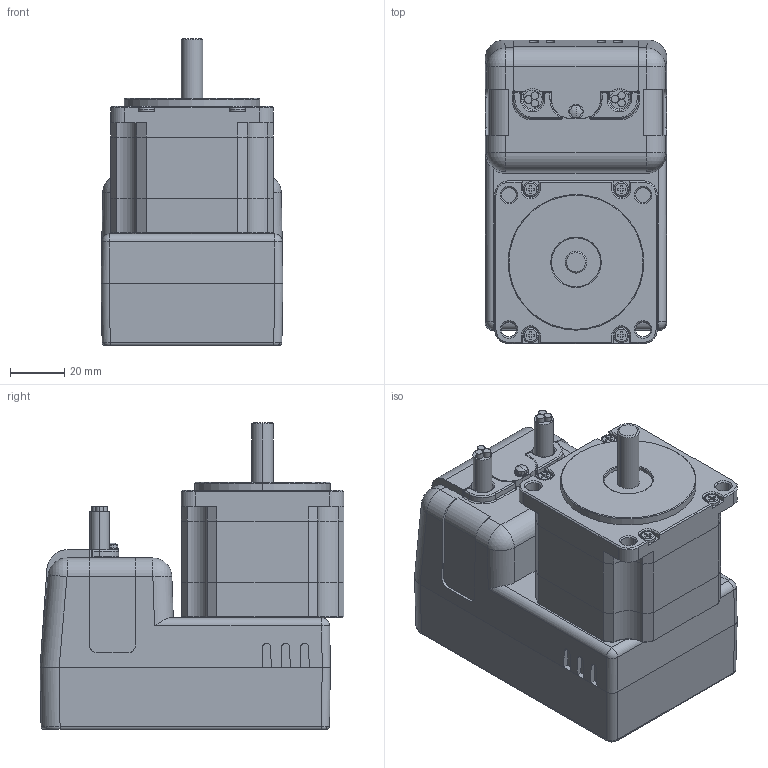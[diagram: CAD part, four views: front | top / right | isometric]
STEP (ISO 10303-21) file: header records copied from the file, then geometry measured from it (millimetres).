
FILE_DESCRIPTION (( 'STEP AP214' ), '1' );
FILE_NAME ('CM2-60A10C.STEP', '2015-03-30T13:40:52', ( '' ), ( '' ), 'SwSTEP 2.0', 'SolidWorks 2015', '' );
FILE_SCHEMA (( 'AUTOMOTIVE_DESIGN' ));
Length unit declared in the file: millimetre
Products named in the file (1): CM2-60A10C
Bounding box: 67 x 112 x 113.1 mm (x, y, z)
Volume: 518049.2 mm3; surface area: 84916.8 mm2
Topology: 19 solids, 19 shells, 534 faces, 1310 edges, 818 vertices
Faces by surface type: plane 236, cylinder 214, torus 35, cone 26, sphere 15, bspline 8
Entity records: 18001 total; most frequent: CARTESIAN_POINT 3086, DIRECTION 2721, ORIENTED_EDGE 2608, EDGE_CURVE 1304, AXIS2_PLACEMENT_3D 975, VERTEX_POINT 818, VECTOR 771, LINE 771
